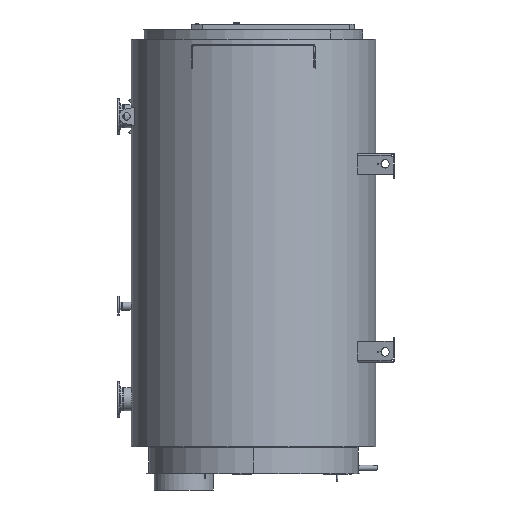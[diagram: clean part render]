
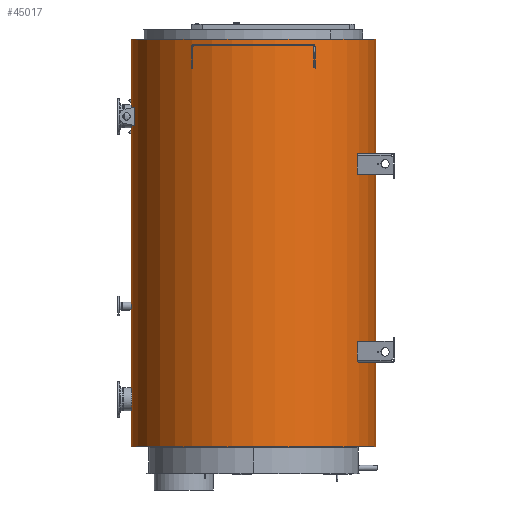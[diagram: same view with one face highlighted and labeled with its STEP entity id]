
A CAD part, left-side view. The second image highlights one B-rep face of the part: STEP entity #45017.
In plain terms, the highlighted cylindrical face has radius 1160 mm (diameter 2320 mm), a full revolution.
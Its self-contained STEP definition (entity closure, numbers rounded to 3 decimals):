
#44973=CARTESIAN_POINT('',(-1160.,-0.,281.));
#44974=VERTEX_POINT('',#44973);
#44975=CARTESIAN_POINT('',(0.,0.,281.));
#44976=DIRECTION('',(-0.,-0.,1.));
#44977=DIRECTION('',(-1.,0.,0.));
#44978=AXIS2_PLACEMENT_3D('',#44975,#44976,#44977);
#44979=CIRCLE('',#44978,1160.);
#44980=EDGE_CURVE('',#44974,#44974,#44979,.T.);
#44993=CARTESIAN_POINT('',(0.,0.,281.002));
#44994=DIRECTION('',(0.,0.,-1.));
#44995=DIRECTION('',(-1.,0.,0.));
#44996=AXIS2_PLACEMENT_3D('',#44993,#44994,#44995);
#44997=CYLINDRICAL_SURFACE('',#44996,1160.);
#44998=CARTESIAN_POINT('',(-1160.,-0.,-3585.));
#44999=VERTEX_POINT('',#44998);
#45000=CARTESIAN_POINT('',(-1160.,0.,-3585.));
#45001=DIRECTION('',(-0.,-0.,1.));
#45002=VECTOR('',#45001,3866.);
#45003=LINE('',#45000,#45002);
#45004=EDGE_CURVE('',#44999,#44974,#45003,.T.);
#45005=ORIENTED_EDGE('',*,*,#45004,.T.);
#45006=ORIENTED_EDGE('',*,*,#44980,.F.);
#45007=ORIENTED_EDGE('',*,*,#45004,.F.);
#45008=CARTESIAN_POINT('',(0.,0.,-3585.));
#45009=DIRECTION('',(0.,0.,-1.));
#45010=DIRECTION('',(-1.,0.,0.));
#45011=AXIS2_PLACEMENT_3D('',#45008,#45009,#45010);
#45012=CIRCLE('',#45011,1160.);
#45013=EDGE_CURVE('',#44999,#44999,#45012,.T.);
#45014=ORIENTED_EDGE('',*,*,#45013,.F.);
#45015=EDGE_LOOP('',(#45005,#45006,#45007,#45014));
#45016=FACE_BOUND('',#45015,.T.);
#45017=ADVANCED_FACE('',(#45016),#44997,.T.);
